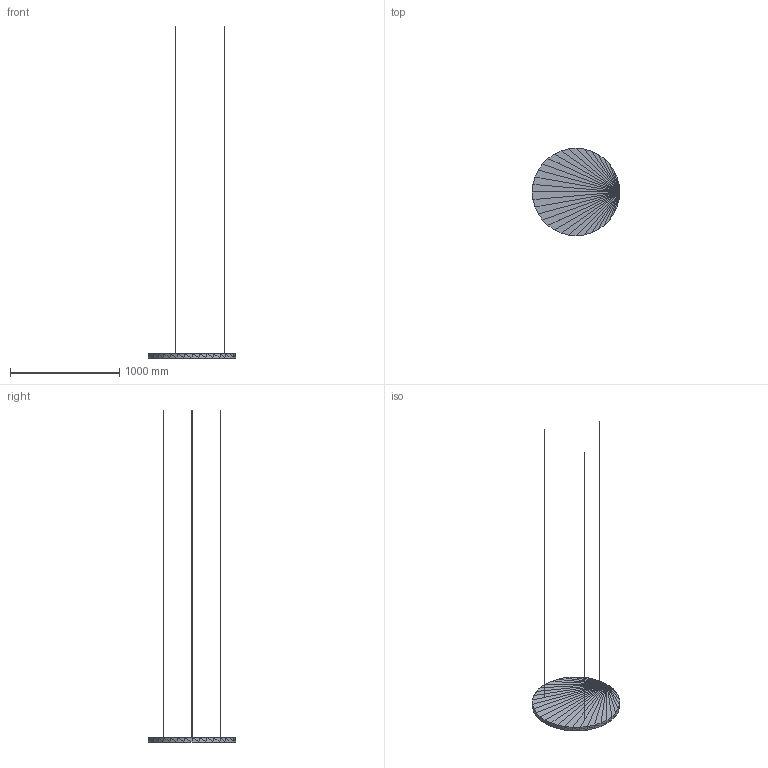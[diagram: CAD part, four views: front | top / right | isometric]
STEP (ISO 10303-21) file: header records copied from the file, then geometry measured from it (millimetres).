
FILE_DESCRIPTION(('ISINAC STEP AP214'),'2;1');
FILE_NAME('ISINAC_CIR.800_40mm_COLGADO','2026-05-03T10:49:20',('ISINAC'),('www.isinac.com'),'ISINAC BIM Generator 1.0','','');
FILE_SCHEMA(('AUTOMOTIVE_DESIGN'));
Length unit declared in the file: millimetre
Products named in the file (1): ISINAC_CIR.800_40mm_COLGADO
Bounding box: 800 x 800 x 3040 mm (x, y, z)
Surface area: 1181652.2 mm2 (no closed solid volume)
Topology: 0 solids, 200 shells, 200 faces, 600 edges, 600 vertices
Faces by surface type: plane 200
Entity records: 2213 total; most frequent: CARTESIAN_POINT 800, DIRECTION 400, POLY_LOOP 200, FACE_OUTER_BOUND 200, AXIS2_PLACEMENT_3D 200, PLANE 200, FACE_SURFACE 200, CLOSED_SHELL 1
